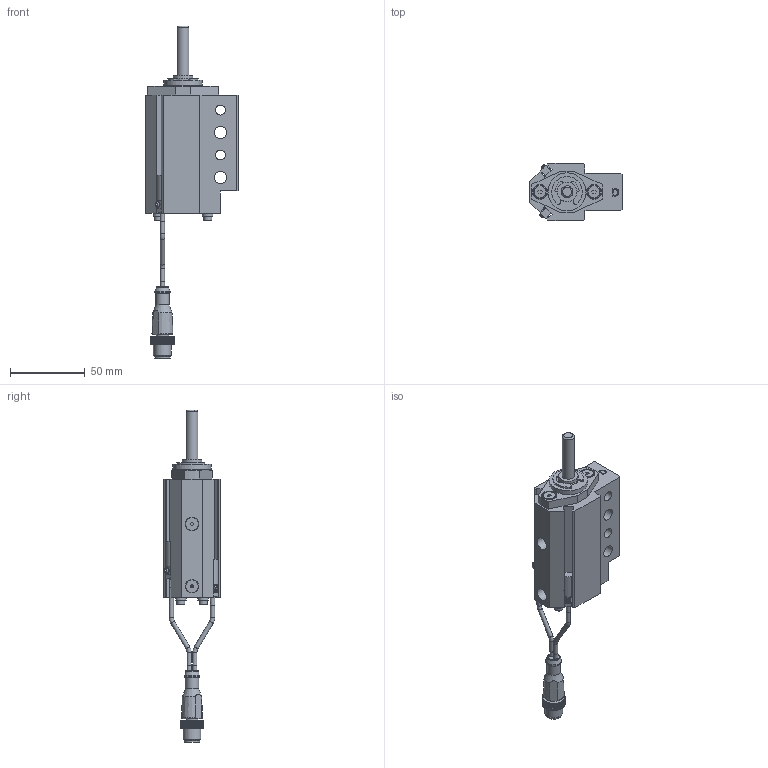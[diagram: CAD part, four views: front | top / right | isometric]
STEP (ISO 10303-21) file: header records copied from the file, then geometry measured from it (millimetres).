
FILE_DESCRIPTION(/* description */ ('NAAMS FLOATING MICRO PIN'),/* implementation_level */ '2;1');
FILE_NAME(/* name */ 'C:\Vault Workspace\CAD\Welker\Shot Pin\NMP\NMP080032EDNL3.stp',/* time_stamp */ '2021-01-28T11:54:50-05:00',/* author */ ('WELKER'),/* organization */ (''),/* preprocessor_version */ 'ST-DEVELOPER v18.1',/* originating_system */ 'Autodesk Inventor 2020',/* authorisation */ '');
FILE_SCHEMA (('AUTOMOTIVE_DESIGN { 1 0 10303 214 3 1 1 }'));
Length unit declared in the file: millimetre
Products named in the file (16): NMPL01; NMP L3 SWITCH; L3 Connector; L3 Sensor 1; L3 Sensor 2; L3 Sensor cable; L3 Sensor cable 2; M3X0.5-8 SHCS; NL3; NMPE06; NMPE03; NMPE04-DIA-LENGTH; 985432A218; NMPE01D-PORT; RMPE02; M5X5 SHOULDER
Assembly tree (22 placements, depth 3):
  NMPL01
    NMP L3 SWITCH
      L3 Connector
      L3 Sensor 1
      L3 Sensor 2
      L3 Sensor cable
      L3 Sensor cable 2
    M3X0.5-8 SHCS  x4
    NL3  x4
    NMPE06
    NMPE03
    NMPE04-DIA-LENGTH
    985432A218
    NMPE01D-PORT
    RMPE02
    M5X5 SHOULDER  x2
Bounding box: 62 x 38.1 x 221.52 mm (x, y, z)
Volume: 112480.3 mm3; surface area: 45430.8 mm2
Topology: 21 solids, 21 shells, 747 faces, 2019 edges, 1349 vertices
Faces by surface type: plane 549, cylinder 144, cone 31, torus 11, bspline 10, sphere 2
Full cylindrical faces by diameter (mm): 2 x2, 2.459 x4, 2.9 x10, 3 x5, 3.242 x2, 3.4 x4, 4 x2, 5 x6, 5.5 x4, 6.647 x2, 7 x4, 8 x3, 8.3 x2, 9 x3, 10 x3, 10.4 x1, 10.5 x1, 12 x1, 13 x3, 16 x2, 19.05 x3, 21 x1, 22.5 x1, 23.672 x1, 24 x1, 25.4 x1, 25.5 x1, 26.5 x1, 28.677 x1, 29.21 x1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
Entity records: 22795 total; most frequent: CARTESIAN_POINT 4222, ORIENTED_EDGE 3736, DIRECTION 3693, EDGE_CURVE 1868, LINE 1375, VECTOR 1375, VERTEX_POINT 1254, AXIS2_PLACEMENT_3D 1159
